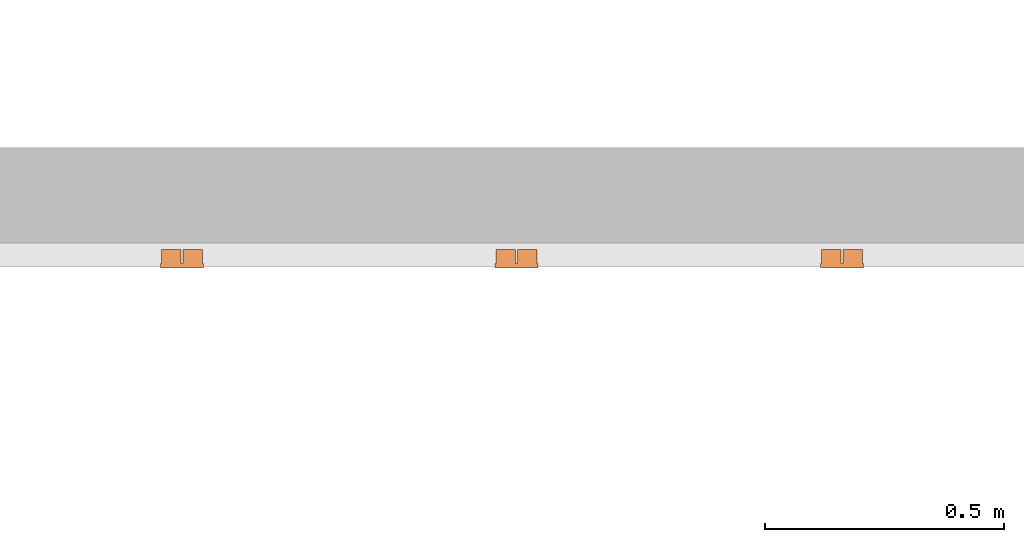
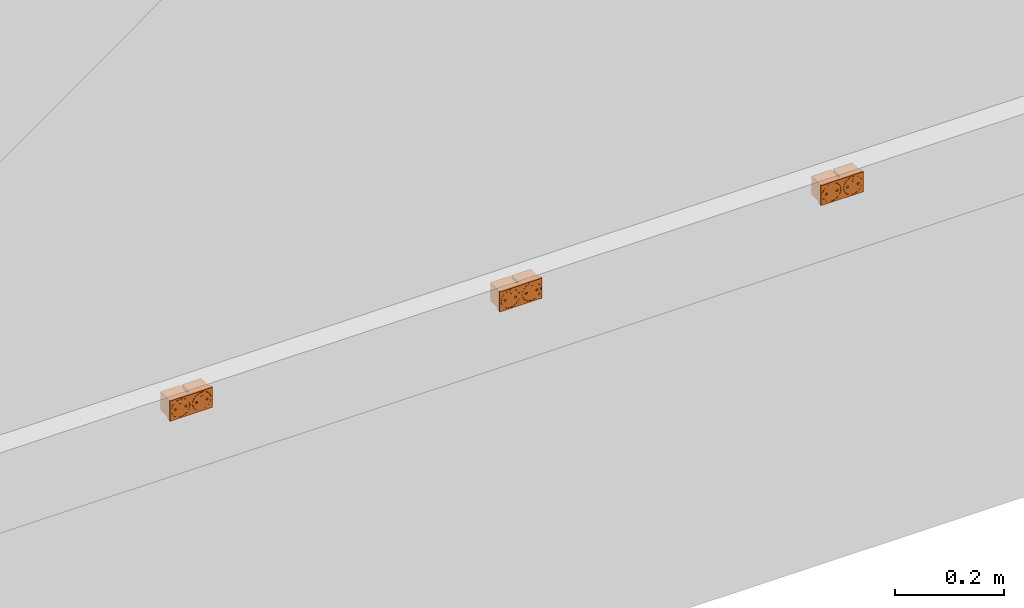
# One storey, part 67 of 197: 3 proxies.
"""IFC2X3 building model written with IfcOpenShell, lengths in metres."""

from ifc_helpers import new_model, entity, si_unit, converted_unit, direction, frame, frame_2d, origin, origin_2d_with_axis, place, context, subcontext, project, spatial, polyline, circle_curve, parameter, trimmed, segment, composite_curve, rectangle, circle, outline, extrude, source, transform, mapped, material, material_list, type_object, type_shapes, element, save


model = new_model("IFC2X3")

# Units and contexts
model_context = context("Model", 3, precision=1e-05, world=origin(), true_north=direction((6.123031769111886e-17, 1.0)))
body_context = subcontext(model_context, "Body", "Model", "MODEL_VIEW")
ifc_project = project(units=[si_unit("LENGTHUNIT", "METRE"), converted_unit("PLANEANGLEUNIT", "DEGREE", entity("IfcPlaneAngleMeasure", 0.017453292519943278), si_unit("PLANEANGLEUNIT", "RADIAN"), dimensions=[0, 0, 0, 0, 0, 0, 0]), si_unit("AREAUNIT", "SQUARE_METRE")], contexts=[model_context])

# Site, building, storey
site_placement = place(None, origin())
site = spatial("IfcSite", under=ifc_project, at=site_placement, Name="Default", CompositionType="ELEMENT")
building_placement = place(site_placement, origin())
building = spatial("IfcBuilding", under=site, at=building_placement, CompositionType="ELEMENT")
storey_placement = place(building_placement, origin())
storey = spatial("IfcBuildingStorey", under=building, at=storey_placement, Name="Niveau 0", CompositionType="ELEMENT", Elevation=0.0)

# Proxies
ifc_material_1 = material(Name="<Unnamed>")
ifc_material_2 = material(Name="BETCE-PCN-BLANC")
ifc_material_list_1 = material_list([ifc_material_1, ifc_material_2])
building_element_proxy_type_1 = type_object("IfcBuildingElementProxyType", Name="Prise double goulotte horizontale:PCM", PredefinedType="NOTDEFINED", material=ifc_material_list_1)
shared_shape_1 = source(origin(), body_context, "Body", "SweptSolid", [
    extrude(circle(Radius=0.002099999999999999, at=frame_2d((0.0, -8.459899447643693e-18), x_axis=(1.0, 0.0))), frame((0.022534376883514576, -0.008993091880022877, 0.011100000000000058), z_axis=(0.0, 1.0, 0.0), x_axis=(-1.0, 0.0, 0.0)), (0.0, 0.0, 1.0), 0.008993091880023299),
    extrude(rectangle(XDim=0.02900000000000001, YDim=0.040999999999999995, at=frame_2d((3.469446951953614e-18, 3.469446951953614e-18), x_axis=(1.0, 0.0))), frame((0.022534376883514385, 0.014506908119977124, -0.020500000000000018), z_axis=(0.0, 0.0, 1.0), x_axis=(0.0, 1.0, 0.0)), (0.0, 0.0, 1.0), 0.04100000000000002),
    extrude(outline(polyline([(-0.022500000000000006, -0.022500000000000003), (0.022500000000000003, -0.022500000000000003), (0.022500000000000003, 0.022500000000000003), (-0.022499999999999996, 0.022500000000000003), (-0.022500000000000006, -0.022500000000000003)]), holes=[composite_curve([segment(trimmed(circle_curve(frame_2d((0.0, 0.0), x_axis=(0.0, -1.0)), 0.019799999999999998), [parameter(179.99999999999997)], [parameter(359.99999999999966)], True, "PARAMETER"), False, "CONTINUOUS"), segment(trimmed(circle_curve(frame_2d((0.0, 0.0), x_axis=(0.0, -1.0)), 0.019799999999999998), [parameter(3.5622212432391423e-13)], [parameter(179.99999999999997)], True, "PARAMETER"), False, "CONTINUOUS")], self_intersect=False)]), frame((0.022534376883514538, -0.008993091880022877, 0.0), z_axis=(0.0, 1.0, 0.0), x_axis=(0.0, 0.0, 1.0)), (0.0, 0.0, 1.0), 0.008993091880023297),
    extrude(outline(composite_curve([segment(trimmed(circle_curve(origin_2d_with_axis(), 0.0195), [parameter(3.5622212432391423e-13)], [parameter(180.00000000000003)], True, "PARAMETER"), True, "CONTINUOUS"), segment(trimmed(circle_curve(origin_2d_with_axis(), 0.0195), [parameter(180.00000000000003)], [parameter(359.99999999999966)], True, "PARAMETER"), True, "CONTINUOUS")], self_intersect=False), holes=[composite_curve([segment(trimmed(circle_curve(frame_2d((0.0, 0.011099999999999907), x_axis=(1.0, 0.0)), 0.0022), [parameter(180.00000000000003)], [parameter(359.9999999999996)], True, "PARAMETER"), False, "CONTINUOUS"), segment(trimmed(circle_curve(frame_2d((0.0, 0.011099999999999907), x_axis=(1.0, 0.0)), 0.0022), [parameter(4.0711099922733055e-13)], [parameter(180.00000000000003)], True, "PARAMETER"), False, "CONTINUOUS")], self_intersect=False), composite_curve([segment(trimmed(circle_curve(frame_2d((-0.011199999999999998, 0.0), x_axis=(0.7071067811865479, 0.7071067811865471)), 0.0022), [parameter(179.99999999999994)], [parameter(359.9999999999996)], True, "PARAMETER"), False, "CONTINUOUS"), segment(trimmed(circle_curve(frame_2d((-0.011199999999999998, 0.0), x_axis=(0.7071067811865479, 0.7071067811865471)), 0.0022), [parameter(3.5622212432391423e-13)], [parameter(180.0)], True, "PARAMETER"), False, "CONTINUOUS")], self_intersect=False), composite_curve([segment(trimmed(circle_curve(frame_2d((0.011199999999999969, 0.0), x_axis=(-0.7071067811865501, 0.7071067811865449)), 0.0022), [parameter(180.00000000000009)], [parameter(1.0177774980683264e-13)], True, "PARAMETER"), False, "CONTINUOUS"), segment(trimmed(circle_curve(frame_2d((0.011199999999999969, 0.0), x_axis=(-0.7071067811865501, 0.7071067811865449)), 0.0022), [parameter(9.159997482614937e-13)], [parameter(180.00000000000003)], True, "PARAMETER"), False, "CONTINUOUS")], self_intersect=False)]), frame((0.022534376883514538, -0.00899309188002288, 0.0), z_axis=(0.0, 1.0, 0.0), x_axis=(-1.0, 0.0, 0.0)), (0.0, 0.0, 1.0), 0.008993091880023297),
    extrude(circle(Radius=0.002099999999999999, at=frame_2d((-6.57466688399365e-33, -8.459899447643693e-18), x_axis=(1.0, 0.0))), frame((-0.02246562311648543, -0.00899309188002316, 0.011100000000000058), z_axis=(0.0, 1.0, 0.0), x_axis=(-1.0, 0.0, 0.0)), (0.0, 0.0, 1.0), 0.008993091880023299),
    extrude(rectangle(XDim=0.02900690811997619, YDim=0.04100000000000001, at=frame_2d((8.673617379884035e-19, -5.204170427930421e-18), x_axis=(1.0, 0.0))), frame((-0.02246562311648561, 0.014503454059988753, -0.020500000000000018), z_axis=(0.0, 0.0, 1.0), x_axis=(0.0, 1.0, 0.0)), (0.0, 0.0, 1.0), 0.04100000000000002),
    extrude(outline(polyline([(-0.022500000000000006, -0.022500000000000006), (0.0225, -0.022500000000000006), (0.022500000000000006, 0.0225), (-0.022499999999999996, 0.0225), (-0.022500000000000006, -0.022500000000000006)]), holes=[composite_curve([segment(trimmed(circle_curve(frame_2d((0.0, 0.0), x_axis=(0.0, -1.0)), 0.019799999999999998), [parameter(179.99999999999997)], [parameter(359.99999999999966)], True, "PARAMETER"), False, "CONTINUOUS"), segment(trimmed(circle_curve(frame_2d((0.0, 0.0), x_axis=(0.0, -1.0)), 0.019799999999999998), [parameter(3.5622212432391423e-13)], [parameter(179.99999999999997)], True, "PARAMETER"), False, "CONTINUOUS")], self_intersect=False)]), frame((-0.02246562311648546, -0.00899309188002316, 0.0), z_axis=(0.0, 1.0, 0.0), x_axis=(0.0, 0.0, 1.0)), (0.0, 0.0, 1.0), 0.008993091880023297),
    extrude(outline(composite_curve([segment(trimmed(circle_curve(origin_2d_with_axis(), 0.0195), [parameter(3.5622212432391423e-13)], [parameter(180.00000000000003)], True, "PARAMETER"), True, "CONTINUOUS"), segment(trimmed(circle_curve(origin_2d_with_axis(), 0.0195), [parameter(180.00000000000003)], [parameter(359.99999999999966)], True, "PARAMETER"), True, "CONTINUOUS")], self_intersect=False), holes=[composite_curve([segment(trimmed(circle_curve(frame_2d((0.0, 0.011099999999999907), x_axis=(1.0, 0.0)), 0.0022), [parameter(180.00000000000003)], [parameter(359.9999999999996)], True, "PARAMETER"), False, "CONTINUOUS"), segment(trimmed(circle_curve(frame_2d((0.0, 0.011099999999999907), x_axis=(1.0, 0.0)), 0.0022), [parameter(4.0711099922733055e-13)], [parameter(180.00000000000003)], True, "PARAMETER"), False, "CONTINUOUS")], self_intersect=False), composite_curve([segment(trimmed(circle_curve(frame_2d((-0.011200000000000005, 0.0), x_axis=(0.7071067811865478, 0.7071067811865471)), 0.0022), [parameter(180.00000000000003)], [parameter(359.99999999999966)], True, "PARAMETER"), False, "CONTINUOUS"), segment(trimmed(circle_curve(frame_2d((-0.011200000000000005, 0.0), x_axis=(0.7071067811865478, 0.7071067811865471)), 0.0022), [parameter(3.5622212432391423e-13)], [parameter(180.00000000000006)], True, "PARAMETER"), False, "CONTINUOUS")], self_intersect=False), composite_curve([segment(trimmed(circle_curve(frame_2d((0.011199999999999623, 0.0), x_axis=(-0.707106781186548, 0.7071067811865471)), 0.0022), [parameter(179.9999999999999)], [parameter(359.99999999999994)], True, "PARAMETER"), False, "CONTINUOUS"), segment(trimmed(circle_curve(frame_2d((0.011199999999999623, 0.0), x_axis=(-0.707106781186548, 0.7071067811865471)), 0.0022), [parameter(7.124442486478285e-13)], [parameter(180.00000000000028)], True, "PARAMETER"), False, "CONTINUOUS")], self_intersect=False)]), frame((-0.022465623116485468, -0.00899309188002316, 0.0), z_axis=(0.0, 1.0, 0.0), x_axis=(-1.0, 0.0, 0.0)), (0.0, 0.0, 1.0), 0.008993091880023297),
])
type_shapes(building_element_proxy_type_1, [shared_shape_1])
proxy_1_placement = place(storey_placement, frame((-401.25144850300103, 76.46896719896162, 0.8693246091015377)))
element("IfcBuildingElementProxy", 1, at=proxy_1_placement, inside=storey, type_object=building_element_proxy_type_1, material=ifc_material_list_1, Name="Prise double goulotte horizontale:PCM", ObjectType="Prise double goulotte horizontale:PCM", context=body_context, shape_type="MappedRepresentation", body=[
    mapped(shared_shape_1, transform((0.0, 0.0, 0.0), scale=1.0)),
])
building_element_proxy_type_2 = type_object("IfcBuildingElementProxyType", Name="Prise double goulotte horizontale:PCN", PredefinedType="NOTDEFINED", material=ifc_material_list_1)
shared_shape_2 = source(origin(), body_context, "Body", "SweptSolid", [
    extrude(circle(Radius=0.002099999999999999, at=frame_2d((0.0, -8.459899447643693e-18), x_axis=(1.0, 0.0))), frame((0.022534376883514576, -0.008993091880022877, 0.011100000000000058), z_axis=(0.0, 1.0, 0.0), x_axis=(-1.0, 0.0, 0.0)), (0.0, 0.0, 1.0), 0.008993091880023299),
    extrude(rectangle(XDim=0.02900000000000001, YDim=0.040999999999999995, at=frame_2d((3.469446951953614e-18, 3.469446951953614e-18), x_axis=(1.0, 0.0))), frame((0.022534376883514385, 0.014506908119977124, -0.020500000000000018), z_axis=(0.0, 0.0, 1.0), x_axis=(0.0, 1.0, 0.0)), (0.0, 0.0, 1.0), 0.04100000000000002),
    extrude(outline(polyline([(-0.022500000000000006, -0.022500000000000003), (0.022500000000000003, -0.022500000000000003), (0.022500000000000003, 0.022500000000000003), (-0.022499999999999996, 0.022500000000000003), (-0.022500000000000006, -0.022500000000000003)]), holes=[composite_curve([segment(trimmed(circle_curve(frame_2d((0.0, 0.0), x_axis=(0.0, -1.0)), 0.019799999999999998), [parameter(179.99999999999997)], [parameter(359.99999999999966)], True, "PARAMETER"), False, "CONTINUOUS"), segment(trimmed(circle_curve(frame_2d((0.0, 0.0), x_axis=(0.0, -1.0)), 0.019799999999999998), [parameter(3.5622212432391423e-13)], [parameter(179.99999999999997)], True, "PARAMETER"), False, "CONTINUOUS")], self_intersect=False)]), frame((0.022534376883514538, -0.008993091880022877, 0.0), z_axis=(0.0, 1.0, 0.0), x_axis=(0.0, 0.0, 1.0)), (0.0, 0.0, 1.0), 0.008993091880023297),
    extrude(outline(composite_curve([segment(trimmed(circle_curve(origin_2d_with_axis(), 0.0195), [parameter(3.5622212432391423e-13)], [parameter(180.00000000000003)], True, "PARAMETER"), True, "CONTINUOUS"), segment(trimmed(circle_curve(origin_2d_with_axis(), 0.0195), [parameter(180.00000000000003)], [parameter(359.99999999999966)], True, "PARAMETER"), True, "CONTINUOUS")], self_intersect=False), holes=[composite_curve([segment(trimmed(circle_curve(frame_2d((0.0, 0.011099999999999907), x_axis=(1.0, 0.0)), 0.0022), [parameter(180.00000000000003)], [parameter(359.9999999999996)], True, "PARAMETER"), False, "CONTINUOUS"), segment(trimmed(circle_curve(frame_2d((0.0, 0.011099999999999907), x_axis=(1.0, 0.0)), 0.0022), [parameter(4.0711099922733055e-13)], [parameter(180.00000000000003)], True, "PARAMETER"), False, "CONTINUOUS")], self_intersect=False), composite_curve([segment(trimmed(circle_curve(frame_2d((-0.011199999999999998, 0.0), x_axis=(0.7071067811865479, 0.7071067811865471)), 0.0022), [parameter(179.99999999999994)], [parameter(359.9999999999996)], True, "PARAMETER"), False, "CONTINUOUS"), segment(trimmed(circle_curve(frame_2d((-0.011199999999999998, 0.0), x_axis=(0.7071067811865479, 0.7071067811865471)), 0.0022), [parameter(3.5622212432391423e-13)], [parameter(180.0)], True, "PARAMETER"), False, "CONTINUOUS")], self_intersect=False), composite_curve([segment(trimmed(circle_curve(frame_2d((0.011199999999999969, 0.0), x_axis=(-0.7071067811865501, 0.7071067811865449)), 0.0022), [parameter(180.00000000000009)], [parameter(1.0177774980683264e-13)], True, "PARAMETER"), False, "CONTINUOUS"), segment(trimmed(circle_curve(frame_2d((0.011199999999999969, 0.0), x_axis=(-0.7071067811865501, 0.7071067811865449)), 0.0022), [parameter(9.159997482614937e-13)], [parameter(180.00000000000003)], True, "PARAMETER"), False, "CONTINUOUS")], self_intersect=False)]), frame((0.022534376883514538, -0.00899309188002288, 0.0), z_axis=(0.0, 1.0, 0.0), x_axis=(-1.0, 0.0, 0.0)), (0.0, 0.0, 1.0), 0.008993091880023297),
    extrude(circle(Radius=0.002099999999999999, at=frame_2d((-6.57466688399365e-33, -8.459899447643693e-18), x_axis=(1.0, 0.0))), frame((-0.02246562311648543, -0.00899309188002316, 0.011100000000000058), z_axis=(0.0, 1.0, 0.0), x_axis=(-1.0, 0.0, 0.0)), (0.0, 0.0, 1.0), 0.008993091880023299),
    extrude(rectangle(XDim=0.02900690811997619, YDim=0.04100000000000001, at=frame_2d((8.673617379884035e-19, -5.204170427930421e-18), x_axis=(1.0, 0.0))), frame((-0.02246562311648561, 0.014503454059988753, -0.020500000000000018), z_axis=(0.0, 0.0, 1.0), x_axis=(0.0, 1.0, 0.0)), (0.0, 0.0, 1.0), 0.04100000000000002),
    extrude(outline(polyline([(-0.022500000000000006, -0.022500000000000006), (0.0225, -0.022500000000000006), (0.022500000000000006, 0.0225), (-0.022499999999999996, 0.0225), (-0.022500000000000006, -0.022500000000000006)]), holes=[composite_curve([segment(trimmed(circle_curve(frame_2d((0.0, 0.0), x_axis=(0.0, -1.0)), 0.019799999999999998), [parameter(179.99999999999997)], [parameter(359.99999999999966)], True, "PARAMETER"), False, "CONTINUOUS"), segment(trimmed(circle_curve(frame_2d((0.0, 0.0), x_axis=(0.0, -1.0)), 0.019799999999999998), [parameter(3.5622212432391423e-13)], [parameter(179.99999999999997)], True, "PARAMETER"), False, "CONTINUOUS")], self_intersect=False)]), frame((-0.02246562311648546, -0.00899309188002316, 0.0), z_axis=(0.0, 1.0, 0.0), x_axis=(0.0, 0.0, 1.0)), (0.0, 0.0, 1.0), 0.008993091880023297),
    extrude(outline(composite_curve([segment(trimmed(circle_curve(origin_2d_with_axis(), 0.0195), [parameter(3.5622212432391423e-13)], [parameter(180.00000000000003)], True, "PARAMETER"), True, "CONTINUOUS"), segment(trimmed(circle_curve(origin_2d_with_axis(), 0.0195), [parameter(180.00000000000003)], [parameter(359.99999999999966)], True, "PARAMETER"), True, "CONTINUOUS")], self_intersect=False), holes=[composite_curve([segment(trimmed(circle_curve(frame_2d((0.0, 0.011099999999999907), x_axis=(1.0, 0.0)), 0.0022), [parameter(180.00000000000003)], [parameter(359.9999999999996)], True, "PARAMETER"), False, "CONTINUOUS"), segment(trimmed(circle_curve(frame_2d((0.0, 0.011099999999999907), x_axis=(1.0, 0.0)), 0.0022), [parameter(4.0711099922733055e-13)], [parameter(180.00000000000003)], True, "PARAMETER"), False, "CONTINUOUS")], self_intersect=False), composite_curve([segment(trimmed(circle_curve(frame_2d((-0.011200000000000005, 0.0), x_axis=(0.7071067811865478, 0.7071067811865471)), 0.0022), [parameter(180.00000000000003)], [parameter(359.99999999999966)], True, "PARAMETER"), False, "CONTINUOUS"), segment(trimmed(circle_curve(frame_2d((-0.011200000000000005, 0.0), x_axis=(0.7071067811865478, 0.7071067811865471)), 0.0022), [parameter(3.5622212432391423e-13)], [parameter(180.00000000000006)], True, "PARAMETER"), False, "CONTINUOUS")], self_intersect=False), composite_curve([segment(trimmed(circle_curve(frame_2d((0.011199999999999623, 0.0), x_axis=(-0.707106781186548, 0.7071067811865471)), 0.0022), [parameter(179.9999999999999)], [parameter(359.99999999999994)], True, "PARAMETER"), False, "CONTINUOUS"), segment(trimmed(circle_curve(frame_2d((0.011199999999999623, 0.0), x_axis=(-0.707106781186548, 0.7071067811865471)), 0.0022), [parameter(7.124442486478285e-13)], [parameter(180.00000000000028)], True, "PARAMETER"), False, "CONTINUOUS")], self_intersect=False)]), frame((-0.022465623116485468, -0.00899309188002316, 0.0), z_axis=(0.0, 1.0, 0.0), x_axis=(-1.0, 0.0, 0.0)), (0.0, 0.0, 1.0), 0.008993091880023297),
])
type_shapes(building_element_proxy_type_2, [shared_shape_2])
proxy_2_placement = place(storey_placement, frame((-400.5514485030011, 76.46896719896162, 0.8693246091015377)))
element("IfcBuildingElementProxy", 2, at=proxy_2_placement, inside=storey, type_object=building_element_proxy_type_2, material=ifc_material_list_1, Name="Prise double goulotte horizontale:PCN", ObjectType="Prise double goulotte horizontale:PCN", context=body_context, shape_type="MappedRepresentation", body=[
    mapped(shared_shape_2, transform((0.0, 0.0, 0.0), scale=1.0)),
])
ifc_material_3 = material(Name="BETCE-PCO-ROUGE")
ifc_material_list_2 = material_list([ifc_material_1, ifc_material_3])
building_element_proxy_type_3 = type_object("IfcBuildingElementProxyType", Name="Prise double goulotte horizontale:PCO", PredefinedType="NOTDEFINED", material=ifc_material_list_2)
shared_shape_3 = source(origin(), body_context, "Body", "SweptSolid", [
    extrude(circle(Radius=0.002099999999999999, at=frame_2d((0.0, -8.459899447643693e-18), x_axis=(1.0, 0.0))), frame((0.022534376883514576, -0.008993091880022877, 0.011100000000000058), z_axis=(0.0, 1.0, 0.0), x_axis=(-1.0, 0.0, 0.0)), (0.0, 0.0, 1.0), 0.008993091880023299),
    extrude(rectangle(XDim=0.02900000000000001, YDim=0.040999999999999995, at=frame_2d((3.469446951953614e-18, 3.469446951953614e-18), x_axis=(1.0, 0.0))), frame((0.022534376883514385, 0.014506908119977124, -0.020500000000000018), z_axis=(0.0, 0.0, 1.0), x_axis=(0.0, 1.0, 0.0)), (0.0, 0.0, 1.0), 0.04100000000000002),
    extrude(outline(polyline([(-0.022500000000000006, -0.022500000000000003), (0.022500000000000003, -0.022500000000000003), (0.022500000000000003, 0.022500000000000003), (-0.022499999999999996, 0.022500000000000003), (-0.022500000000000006, -0.022500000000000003)]), holes=[composite_curve([segment(trimmed(circle_curve(frame_2d((0.0, 0.0), x_axis=(0.0, -1.0)), 0.019799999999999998), [parameter(179.99999999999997)], [parameter(359.99999999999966)], True, "PARAMETER"), False, "CONTINUOUS"), segment(trimmed(circle_curve(frame_2d((0.0, 0.0), x_axis=(0.0, -1.0)), 0.019799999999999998), [parameter(3.5622212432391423e-13)], [parameter(179.99999999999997)], True, "PARAMETER"), False, "CONTINUOUS")], self_intersect=False)]), frame((0.022534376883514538, -0.008993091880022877, 0.0), z_axis=(0.0, 1.0, 0.0), x_axis=(0.0, 0.0, 1.0)), (0.0, 0.0, 1.0), 0.008993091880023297),
    extrude(outline(composite_curve([segment(trimmed(circle_curve(origin_2d_with_axis(), 0.0195), [parameter(3.5622212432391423e-13)], [parameter(180.00000000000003)], True, "PARAMETER"), True, "CONTINUOUS"), segment(trimmed(circle_curve(origin_2d_with_axis(), 0.0195), [parameter(180.00000000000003)], [parameter(359.99999999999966)], True, "PARAMETER"), True, "CONTINUOUS")], self_intersect=False), holes=[composite_curve([segment(trimmed(circle_curve(frame_2d((0.0, 0.011099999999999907), x_axis=(1.0, 0.0)), 0.0022), [parameter(180.00000000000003)], [parameter(359.9999999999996)], True, "PARAMETER"), False, "CONTINUOUS"), segment(trimmed(circle_curve(frame_2d((0.0, 0.011099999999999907), x_axis=(1.0, 0.0)), 0.0022), [parameter(4.0711099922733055e-13)], [parameter(180.00000000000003)], True, "PARAMETER"), False, "CONTINUOUS")], self_intersect=False), composite_curve([segment(trimmed(circle_curve(frame_2d((-0.011199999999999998, 0.0), x_axis=(0.7071067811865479, 0.7071067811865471)), 0.0022), [parameter(179.99999999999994)], [parameter(359.9999999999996)], True, "PARAMETER"), False, "CONTINUOUS"), segment(trimmed(circle_curve(frame_2d((-0.011199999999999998, 0.0), x_axis=(0.7071067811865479, 0.7071067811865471)), 0.0022), [parameter(3.5622212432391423e-13)], [parameter(180.0)], True, "PARAMETER"), False, "CONTINUOUS")], self_intersect=False), composite_curve([segment(trimmed(circle_curve(frame_2d((0.011199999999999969, 0.0), x_axis=(-0.7071067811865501, 0.7071067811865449)), 0.0022), [parameter(180.00000000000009)], [parameter(1.0177774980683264e-13)], True, "PARAMETER"), False, "CONTINUOUS"), segment(trimmed(circle_curve(frame_2d((0.011199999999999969, 0.0), x_axis=(-0.7071067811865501, 0.7071067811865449)), 0.0022), [parameter(9.159997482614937e-13)], [parameter(180.00000000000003)], True, "PARAMETER"), False, "CONTINUOUS")], self_intersect=False)]), frame((0.022534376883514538, -0.00899309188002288, 0.0), z_axis=(0.0, 1.0, 0.0), x_axis=(-1.0, 0.0, 0.0)), (0.0, 0.0, 1.0), 0.008993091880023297),
    extrude(circle(Radius=0.002099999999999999, at=frame_2d((-6.57466688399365e-33, -8.459899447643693e-18), x_axis=(1.0, 0.0))), frame((-0.02246562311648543, -0.00899309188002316, 0.011100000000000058), z_axis=(0.0, 1.0, 0.0), x_axis=(-1.0, 0.0, 0.0)), (0.0, 0.0, 1.0), 0.008993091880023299),
    extrude(rectangle(XDim=0.02900690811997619, YDim=0.04100000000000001, at=frame_2d((8.673617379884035e-19, -5.204170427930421e-18), x_axis=(1.0, 0.0))), frame((-0.02246562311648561, 0.014503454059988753, -0.020500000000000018), z_axis=(0.0, 0.0, 1.0), x_axis=(0.0, 1.0, 0.0)), (0.0, 0.0, 1.0), 0.04100000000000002),
    extrude(outline(polyline([(-0.022500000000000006, -0.022500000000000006), (0.0225, -0.022500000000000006), (0.022500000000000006, 0.0225), (-0.022499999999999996, 0.0225), (-0.022500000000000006, -0.022500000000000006)]), holes=[composite_curve([segment(trimmed(circle_curve(frame_2d((0.0, 0.0), x_axis=(0.0, -1.0)), 0.019799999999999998), [parameter(179.99999999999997)], [parameter(359.99999999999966)], True, "PARAMETER"), False, "CONTINUOUS"), segment(trimmed(circle_curve(frame_2d((0.0, 0.0), x_axis=(0.0, -1.0)), 0.019799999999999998), [parameter(3.5622212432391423e-13)], [parameter(179.99999999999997)], True, "PARAMETER"), False, "CONTINUOUS")], self_intersect=False)]), frame((-0.02246562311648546, -0.00899309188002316, 0.0), z_axis=(0.0, 1.0, 0.0), x_axis=(0.0, 0.0, 1.0)), (0.0, 0.0, 1.0), 0.008993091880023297),
    extrude(outline(composite_curve([segment(trimmed(circle_curve(origin_2d_with_axis(), 0.0195), [parameter(3.5622212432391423e-13)], [parameter(180.00000000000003)], True, "PARAMETER"), True, "CONTINUOUS"), segment(trimmed(circle_curve(origin_2d_with_axis(), 0.0195), [parameter(180.00000000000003)], [parameter(359.99999999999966)], True, "PARAMETER"), True, "CONTINUOUS")], self_intersect=False), holes=[composite_curve([segment(trimmed(circle_curve(frame_2d((0.0, 0.011099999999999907), x_axis=(1.0, 0.0)), 0.0022), [parameter(180.00000000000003)], [parameter(359.9999999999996)], True, "PARAMETER"), False, "CONTINUOUS"), segment(trimmed(circle_curve(frame_2d((0.0, 0.011099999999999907), x_axis=(1.0, 0.0)), 0.0022), [parameter(4.0711099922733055e-13)], [parameter(180.00000000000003)], True, "PARAMETER"), False, "CONTINUOUS")], self_intersect=False), composite_curve([segment(trimmed(circle_curve(frame_2d((-0.011200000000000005, 0.0), x_axis=(0.7071067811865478, 0.7071067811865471)), 0.0022), [parameter(180.00000000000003)], [parameter(359.99999999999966)], True, "PARAMETER"), False, "CONTINUOUS"), segment(trimmed(circle_curve(frame_2d((-0.011200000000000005, 0.0), x_axis=(0.7071067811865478, 0.7071067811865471)), 0.0022), [parameter(3.5622212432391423e-13)], [parameter(180.00000000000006)], True, "PARAMETER"), False, "CONTINUOUS")], self_intersect=False), composite_curve([segment(trimmed(circle_curve(frame_2d((0.011199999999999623, 0.0), x_axis=(-0.707106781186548, 0.7071067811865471)), 0.0022), [parameter(179.9999999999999)], [parameter(359.99999999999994)], True, "PARAMETER"), False, "CONTINUOUS"), segment(trimmed(circle_curve(frame_2d((0.011199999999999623, 0.0), x_axis=(-0.707106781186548, 0.7071067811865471)), 0.0022), [parameter(7.124442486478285e-13)], [parameter(180.00000000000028)], True, "PARAMETER"), False, "CONTINUOUS")], self_intersect=False)]), frame((-0.022465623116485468, -0.00899309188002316, 0.0), z_axis=(0.0, 1.0, 0.0), x_axis=(-1.0, 0.0, 0.0)), (0.0, 0.0, 1.0), 0.008993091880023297),
])
type_shapes(building_element_proxy_type_3, [shared_shape_3])
proxy_3_placement = place(storey_placement, frame((-399.8694485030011, 76.46896719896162, 0.8693246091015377)))
element("IfcBuildingElementProxy", 3, at=proxy_3_placement, inside=storey, type_object=building_element_proxy_type_3, material=ifc_material_list_2, Name="Prise double goulotte horizontale:PCO", ObjectType="Prise double goulotte horizontale:PCO", context=body_context, shape_type="MappedRepresentation", body=[
    mapped(shared_shape_3, transform((0.0, 0.0, 0.0), scale=1.0)),
])

save(model, "model.ifc")
